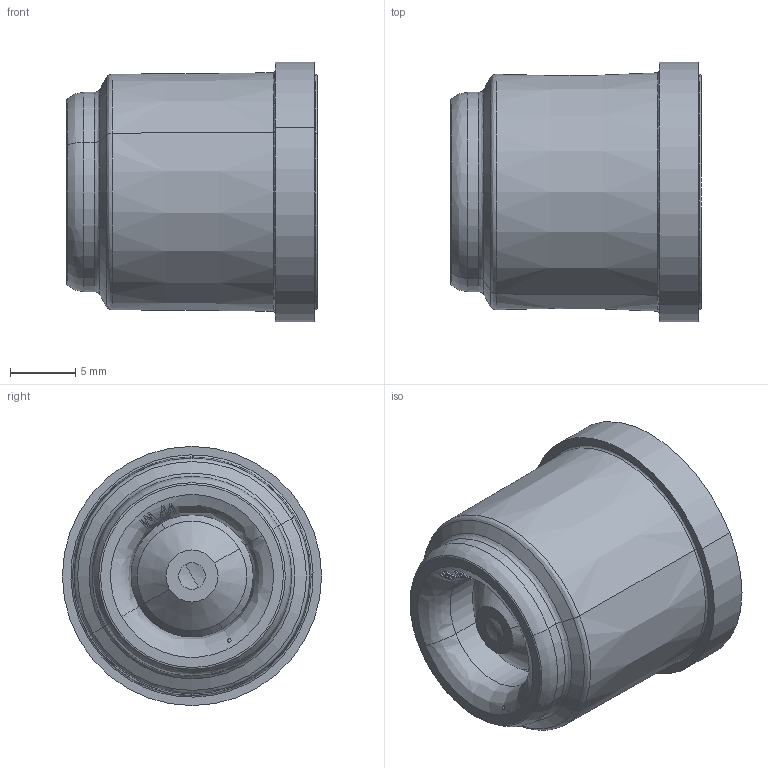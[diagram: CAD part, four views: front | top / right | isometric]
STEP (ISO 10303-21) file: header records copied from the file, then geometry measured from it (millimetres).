
FILE_DESCRIPTION (( 'STEP AP203' ), '1' );
FILE_NAME ('WM015-W149015600.STEP', '2020-04-08T14:53:36', ( '' ), ( '' ), 'SwSTEP 2.0', 'SolidWorks 2017', '' );
FILE_SCHEMA (( 'CONFIG_CONTROL_DESIGN' ));
Length unit declared in the file: metre
Products named in the file (6): PRT_FRVIR_0000008075; Pièce34^ASM_FRVIR_0000002716; PRT_FRVIR_0000008111; PRT_FRVIR_0000008072; PRT_FRVIR_0000008052_DéfautSpl(monté); WM015-W149015600
Assembly tree (5 placements, depth 2):
  WM015-W149015600
    PRT_FRVIR_0000008072
    PRT_FRVIR_0000008052_DéfautSpl(monté)
    PRT_FRVIR_0000008075
    PRT_FRVIR_0000008111
    Pièce34^ASM_FRVIR_0000002716
Bounding box: 19.25 x 19.9 x 19.9 mm (x, y, z)
Volume: 2675 mm3; surface area: 4272.1 mm2
Topology: 5 solids, 5 shells, 340 faces, 882 edges, 570 vertices
Faces by surface type: plane 149, bspline 85, cone 56, cylinder 50
Entity records: 15542 total; most frequent: CARTESIAN_POINT 7353, ORIENTED_EDGE 1760, DIRECTION 1323, EDGE_CURVE 880, VERTEX_POINT 570, AXIS2_PLACEMENT_3D 473, LINE 377, VECTOR 377
